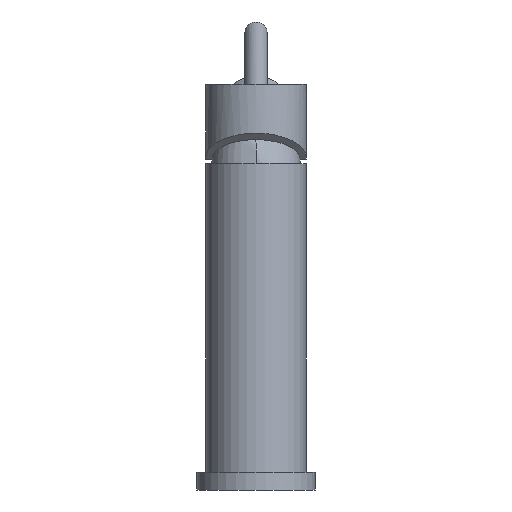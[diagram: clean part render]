
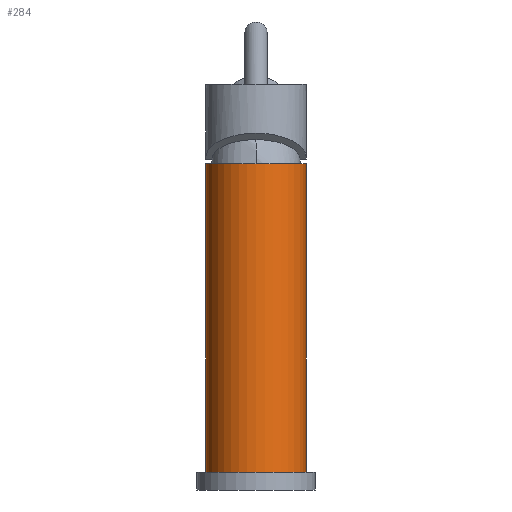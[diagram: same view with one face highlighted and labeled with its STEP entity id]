
A CAD part, front view. The second image highlights one B-rep face of the part: STEP entity #284.
In plain terms, the highlighted cylindrical face has radius 22.5 mm (diameter 45 mm), a full revolution.
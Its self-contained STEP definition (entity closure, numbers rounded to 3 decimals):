
#54=CIRCLE('',#3585,22.5);
#55=CIRCLE('',#3586,22.5);
#72=CYLINDRICAL_SURFACE('',#3571,22.5);
#284=ADVANCED_FACE('',(#484,#306),#72,.T.);
#306=FACE_BOUND('',#684,.T.);
#484=FACE_OUTER_BOUND('',#683,.T.);
#683=EDGE_LOOP('',(#1642,#1643,#1644,#1645));
#684=EDGE_LOOP('',(#1646,#1647));
#1642=ORIENTED_EDGE('',*,*,#2145,.F.);
#1643=ORIENTED_EDGE('',*,*,#2147,.T.);
#1644=ORIENTED_EDGE('',*,*,#2146,.F.);
#1645=ORIENTED_EDGE('',*,*,#2147,.F.);
#1646=ORIENTED_EDGE('',*,*,#2157,.T.);
#1647=ORIENTED_EDGE('',*,*,#2158,.T.);
#2145=EDGE_CURVE('',#2938,#2938,#54,.T.);
#2146=EDGE_CURVE('',#2939,#2939,#55,.T.);
#2147=EDGE_CURVE('',#2938,#2939,#2612,.T.);
#2157=EDGE_CURVE('',#2943,#2942,#2614,.T.);
#2158=EDGE_CURVE('',#2942,#2943,#2615,.T.);
#2612=B_SPLINE_CURVE_WITH_KNOTS('',1,(#5638,#5639),.UNSPECIFIED.,.F.,.F.,
(2,2),(13.93,152.03),.UNSPECIFIED.);
#2614=B_SPLINE_CURVE_WITH_KNOTS('',3,(#5662,#5663,#5664,#5665,#5666,#5667,
#5668,#5669,#5670,#5671,#5672,#5673,#5674,#5675,#5676,#5677,#5678,#5679,
#5680,#5681,#5682,#5683,#5684,#5685,#5686,#5687,#5688),.UNSPECIFIED.,.F.,
 .F.,(4,2,2,2,2,3,2,2,2,2,2,2,4),(-51.54,-48.166,-44.792,
-38.045,-30.987,-23.93,-20.712,
-17.495,-14.278,-11.06,-5.53,
-2.765,0.),.UNSPECIFIED.);
#2615=B_SPLINE_CURVE_WITH_KNOTS('',3,(#5689,#5690,#5691,#5692,#5693,#5694,
#5695,#5696,#5697,#5698,#5699,#5700,#5701,#5702,#5703,#5704,#5705,#5706,
#5707,#5708,#5709,#5710,#5711,#5712,#5713,#5714),.UNSPECIFIED.,.F.,.F.,
(4,2,2,2,2,2,2,2,2,2,2,2,4),(-51.54,-48.774,-46.008,
-40.477,-37.259,-34.041,-30.823,
-27.605,-20.549,-13.492,-6.746,
-3.373,0.),.UNSPECIFIED.);
#2938=VERTEX_POINT('',#5546);
#2939=VERTEX_POINT('',#5547);
#2942=VERTEX_POINT('',#5550);
#2943=VERTEX_POINT('',#5551);
#3571=AXIS2_PLACEMENT_3D('',#5437,#3804,$);
#3585=AXIS2_PLACEMENT_3D($,#5636,#3828,#3829);
#3586=AXIS2_PLACEMENT_3D($,#5637,#3830,#3831);
#3804=DIRECTION('',(0.,0.,1.));
#3828=DIRECTION('',(0.,0.,-1.));
#3829=DIRECTION('',(-1.,0.,0.));
#3830=DIRECTION('',(0.,0.,1.));
#3831=DIRECTION('',(-1.,0.,0.));
#5437=CARTESIAN_POINT('',(0.,0.,51.35));
#5546=CARTESIAN_POINT('',(-22.5,0.,-17.7));
#5547=CARTESIAN_POINT('',(-22.5,0.,120.4));
#5550=CARTESIAN_POINT('',(0.,22.5,35.561));
#5551=CARTESIAN_POINT('',(0.,22.5,68.641));
#5636=CARTESIAN_POINT('',(0.,0.,-17.7));
#5637=CARTESIAN_POINT('',(0.,0.,120.4));
#5638=CARTESIAN_POINT('',(-22.5,0.,-17.7));
#5639=CARTESIAN_POINT('',(-22.5,0.,120.4));
#5662=CARTESIAN_POINT('',(0.,22.5,68.641));
#5663=CARTESIAN_POINT('',(-1.081,22.5,68.641));
#5664=CARTESIAN_POINT('',(-2.156,22.421,68.474));
#5665=CARTESIAN_POINT('',(-4.221,22.125,67.841));
#5666=CARTESIAN_POINT('',(-5.213,21.909,67.375));
#5667=CARTESIAN_POINT('',(-7.983,21.124,65.641));
#5668=CARTESIAN_POINT('',(-9.557,20.416,64.022));
#5669=CARTESIAN_POINT('',(-12.021,19.074,60.601));
#5670=CARTESIAN_POINT('',(-13.091,18.324,58.508));
#5671=CARTESIAN_POINT('',(-14.578,17.165,54.059));
#5672=CARTESIAN_POINT('',(-15.,16.771,51.701));
#5673=CARTESIAN_POINT('',(-15.,16.771,49.439));
#5674=CARTESIAN_POINT('',(-15.,16.771,48.407));
#5675=CARTESIAN_POINT('',(-14.911,16.852,47.35));
#5676=CARTESIAN_POINT('',(-14.509,17.199,45.292));
#5677=CARTESIAN_POINT('',(-14.197,17.464,44.292));
#5678=CARTESIAN_POINT('',(-13.351,18.119,42.434));
#5679=CARTESIAN_POINT('',(-12.816,18.508,41.572));
#5680=CARTESIAN_POINT('',(-11.57,19.312,40.026));
#5681=CARTESIAN_POINT('',(-10.857,19.726,39.343));
#5682=CARTESIAN_POINT('',(-8.792,20.762,37.752));
#5683=CARTESIAN_POINT('',(-7.176,21.402,36.918));
#5684=CARTESIAN_POINT('',(-4.544,22.055,36.097));
#5685=CARTESIAN_POINT('',(-3.632,22.224,35.892));
#5686=CARTESIAN_POINT('',(-1.804,22.446,35.624));
#5687=CARTESIAN_POINT('',(-0.887,22.5,35.561));
#5688=CARTESIAN_POINT('',(0.,22.5,35.561));
#5689=CARTESIAN_POINT('',(0.,22.5,35.561));
#5690=CARTESIAN_POINT('',(0.887,22.5,35.561));
#5691=CARTESIAN_POINT('',(1.804,22.446,35.624));
#5692=CARTESIAN_POINT('',(3.632,22.224,35.892));
#5693=CARTESIAN_POINT('',(4.544,22.055,36.097));
#5694=CARTESIAN_POINT('',(7.176,21.402,36.918));
#5695=CARTESIAN_POINT('',(8.792,20.762,37.752));
#5696=CARTESIAN_POINT('',(10.857,19.726,39.343));
#5697=CARTESIAN_POINT('',(11.57,19.312,40.026));
#5698=CARTESIAN_POINT('',(12.816,18.508,41.572));
#5699=CARTESIAN_POINT('',(13.351,18.119,42.434));
#5700=CARTESIAN_POINT('',(14.197,17.464,44.292));
#5701=CARTESIAN_POINT('',(14.509,17.199,45.292));
#5702=CARTESIAN_POINT('',(14.911,16.852,47.35));
#5703=CARTESIAN_POINT('',(15.,16.771,48.407));
#5704=CARTESIAN_POINT('',(15.,16.771,51.701));
#5705=CARTESIAN_POINT('',(14.578,17.165,54.059));
#5706=CARTESIAN_POINT('',(13.091,18.324,58.508));
#5707=CARTESIAN_POINT('',(12.021,19.074,60.601));
#5708=CARTESIAN_POINT('',(9.557,20.416,64.022));
#5709=CARTESIAN_POINT('',(7.983,21.124,65.641));
#5710=CARTESIAN_POINT('',(5.213,21.909,67.375));
#5711=CARTESIAN_POINT('',(4.221,22.125,67.841));
#5712=CARTESIAN_POINT('',(2.156,22.421,68.474));
#5713=CARTESIAN_POINT('',(1.081,22.5,68.641));
#5714=CARTESIAN_POINT('',(0.,22.5,68.641));
